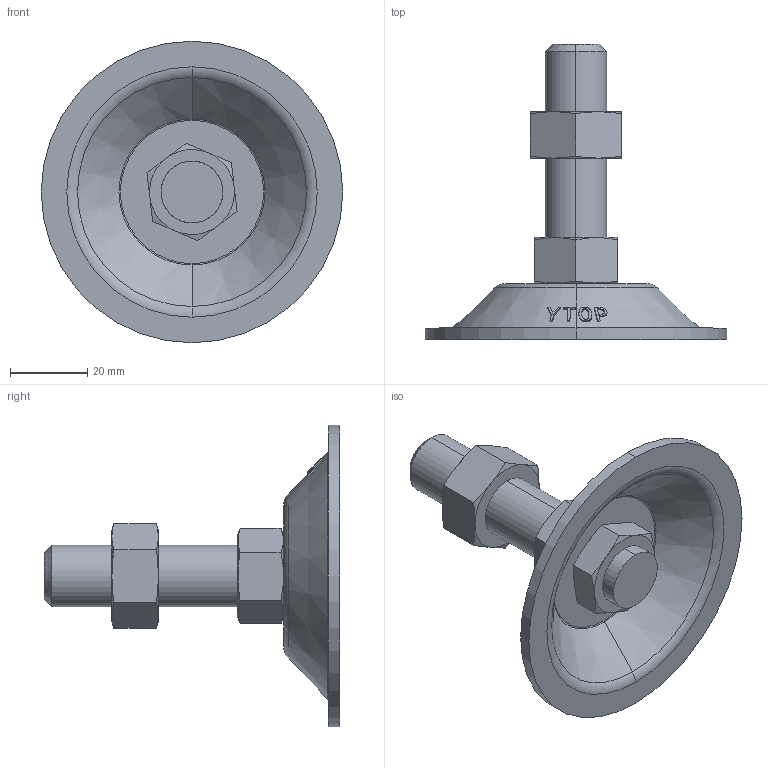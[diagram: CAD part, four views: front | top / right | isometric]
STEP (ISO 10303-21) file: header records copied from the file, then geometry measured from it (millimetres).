
FILE_DESCRIPTION (( 'STEP AP203' ), '1' );
FILE_NAME ('N-80-1650-S.STEP', '2020-09-10T08:01:54', ( '' ), ( '' ), 'SwSTEP 2.0', 'SolidWorks 2016', '' );
FILE_SCHEMA (( 'CONFIG_CONTROL_DESIGN' ));
Length unit declared in the file: millimetre
Products named in the file (5): 脚垫调节六角螺母M16; 不锈钢双头螺杆M16系列_M16X50; H-80-3P H倰80菁釱; 脚垫锁紧六角薄螺母M16; N-80-1650-S
Assembly tree (4 placements, depth 2):
  N-80-1650-S
    H-80-3P H倰80菁釱
    不锈钢双头螺杆M16系列_M16X50
    脚垫锁紧六角薄螺母M16
    脚垫调节六角螺母M16
Bounding box: 78 x 76.5 x 78 mm (x, y, z)
Volume: 39297.2 mm3; surface area: 19743.2 mm2
Topology: 4 solids, 4 shells, 140 faces, 320 edges, 198 vertices
Faces by surface type: cone 53, bspline 37, plane 30, cylinder 12, torus 8
Entity records: 7886 total; most frequent: CARTESIAN_POINT 4597, ORIENTED_EDGE 640, DIRECTION 452, EDGE_CURVE 320, AXIS2_PLACEMENT_3D 200, VERTEX_POINT 198, B_SPLINE_CURVE_WITH_KNOTS 178, EDGE_LOOP 156
